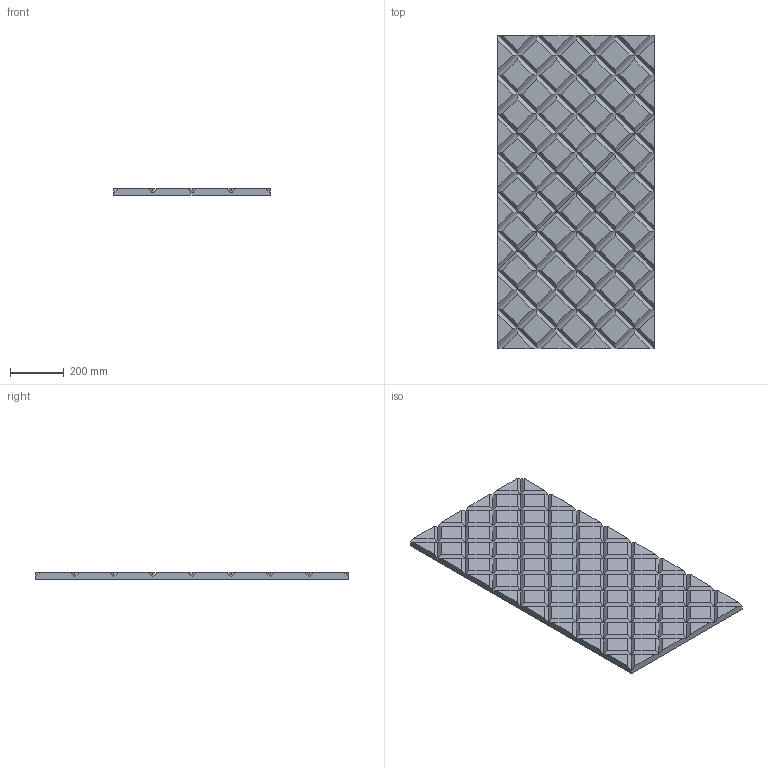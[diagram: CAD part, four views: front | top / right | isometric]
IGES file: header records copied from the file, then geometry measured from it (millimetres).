
Start section: SolidWorks IGES file using analytic representation for surfaces
Global section: file name: \\vmware-host\Shared Folders\Desktop\BAUX\quilted.IGS; native system: SolidWorks 2014; preprocessor: SolidWorks 2014; author: iMac 3; date: 150121.181758; units: millimetre
Bounding box: 580 x 1160 x 25 mm (x, y, z)
Surface area: 1546630.6 mm2 (no closed solid volume)
Topology: 0 solids, 0 shells, 337 faces, 1392 edges, 1392 vertices
Faces by surface type: bspline 337
